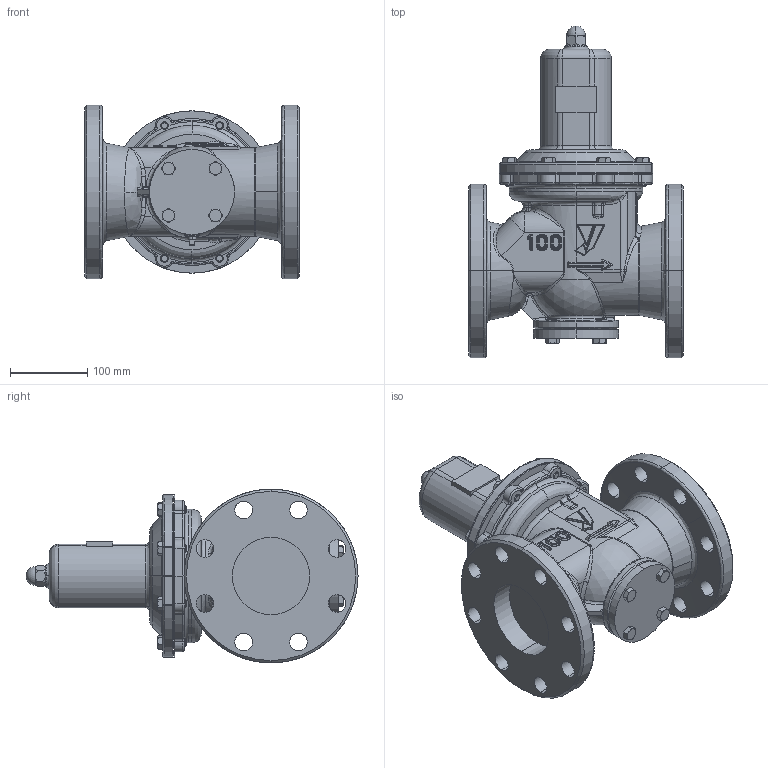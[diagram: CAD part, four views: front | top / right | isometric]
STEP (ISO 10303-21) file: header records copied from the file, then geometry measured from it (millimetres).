
FILE_DESCRIPTION( (''), '2;1');
FILE_NAME ('PC2091.19220.GD-29-NE 100A_24781.stp','2026-04-16T18:04:23',(''),(''),'spGate 21.9.4 (****-****-****-****)','','');
FILE_SCHEMA (('AUTOMOTIVE_DESIGN'));
Length unit declared in the file: millimetre
Products named in the file (7): Assembly; 保護筒 100A; 四角プラグ R1／8; CP_''_JIS B 1183 六角袋ナット 3形 M''_705; CP_''_JIS B 1180 呼び径六角ボルト''_17166; GD-29_100A_弁箱概略モデル; CP_''_JIS B 1180 呼び径六角ボルト''_M10-25
Assembly tree (16 placements, depth 2):
  Assembly
    保護筒 100A
    四角プラグ R1／8
    CP_''_JIS B 1183 六角袋ナット 3形 M''_705
    CP_''_JIS B 1180 呼び径六角ボルト''_17166  x8
    GD-29_100A_弁箱概略モデル
    CP_''_JIS B 1180 呼び径六角ボルト''_M10-25  x4
Bounding box: 278 x 429.5 x 225 mm (x, y, z)
Volume: 6253695.8 mm3; surface area: 622486.7 mm2
Topology: 16 solids, 16 shells, 1022 faces, 2366 edges, 1373 vertices
Faces by surface type: bspline 427, cylinder 301, plane 240, sphere 54
Entity records: 56537 total; most frequent: CARTESIAN_POINT 26437, ORIENTED_EDGE 3646, COLOUR_RGB 2611, PRESENTATION_STYLE_ASSIGNMENT 2611, STYLED_ITEM 2611, DIRECTION 2557, EDGE_CURVE 1823, DRAUGHTING_PRE_DEFINED_CURVE_FONT 1823
